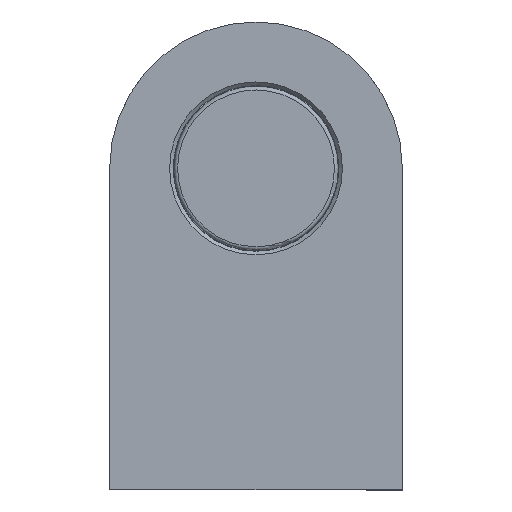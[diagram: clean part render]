
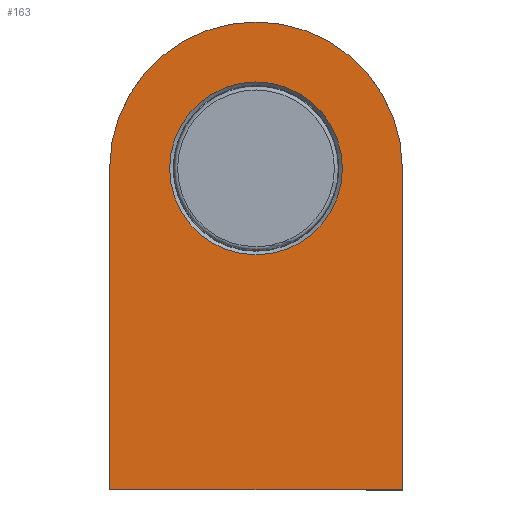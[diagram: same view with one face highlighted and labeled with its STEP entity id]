
A CAD part, top view. The second image highlights one B-rep face of the part: STEP entity #163.
In plain terms, the highlighted planar face has unit normal (0, 0, 1).
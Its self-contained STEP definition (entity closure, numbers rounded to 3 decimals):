
#74=PLANE('',#1039);
#124=FACE_BOUND('',#279,.T.);
#125=FACE_BOUND('',#280,.T.);
#163=ADVANCED_FACE('',(#124,#125),#74,.T.);
#279=EDGE_LOOP('',(#484,#485,#486,#487));
#280=EDGE_LOOP('',(#488));
#319=CIRCLE('',#1030,12.1);
#320=CIRCLE('',#1032,20.5);
#484=ORIENTED_EDGE('',*,*,#755,.T.);
#485=ORIENTED_EDGE('',*,*,#744,.T.);
#486=ORIENTED_EDGE('',*,*,#754,.T.);
#487=ORIENTED_EDGE('',*,*,#756,.T.);
#488=ORIENTED_EDGE('',*,*,#742,.T.);
#635=VERTEX_POINT('',#1567);
#637=VERTEX_POINT('',#1571);
#638=VERTEX_POINT('',#1573);
#644=VERTEX_POINT('',#1591);
#645=VERTEX_POINT('',#1595);
#742=EDGE_CURVE('',#635,#635,#319,.T.);
#744=EDGE_CURVE('',#638,#637,#320,.T.);
#754=EDGE_CURVE('',#637,#644,#853,.T.);
#755=EDGE_CURVE('',#645,#638,#854,.T.);
#756=EDGE_CURVE('',#644,#645,#855,.T.);
#853=LINE('',#1592,#947);
#854=LINE('',#1594,#948);
#855=LINE('',#1596,#949);
#947=VECTOR('',#1237,1.);
#948=VECTOR('',#1240,1.);
#949=VECTOR('',#1241,1.);
#1030=AXIS2_PLACEMENT_3D('',#1566,#1213,#1214);
#1032=AXIS2_PLACEMENT_3D('',#1572,#1218,#1219);
#1039=AXIS2_PLACEMENT_3D('',#1597,#1242,#1243);
#1213=DIRECTION('',(0.,0.,-1.));
#1214=DIRECTION('',(1.,0.,0.));
#1218=DIRECTION('',(0.,0.,1.));
#1219=DIRECTION('',(1.,0.,0.));
#1237=DIRECTION('',(0.,-1.,0.));
#1240=DIRECTION('',(0.,1.,0.));
#1241=DIRECTION('',(1.,0.,0.));
#1242=DIRECTION('',(0.,0.,1.));
#1243=DIRECTION('',(0.,1.,0.));
#1566=CARTESIAN_POINT('',(0.,45.,1.));
#1567=CARTESIAN_POINT('',(12.1,45.,1.));
#1571=CARTESIAN_POINT('',(-20.5,45.,1.));
#1572=CARTESIAN_POINT('',(0.,45.,1.));
#1573=CARTESIAN_POINT('',(20.5,45.,1.));
#1591=CARTESIAN_POINT('',(-20.5,-0.009,1.));
#1592=CARTESIAN_POINT('',(-20.5,-0.009,1.));
#1594=CARTESIAN_POINT('',(20.5,-0.009,1.));
#1595=CARTESIAN_POINT('',(20.5,-0.009,1.));
#1596=CARTESIAN_POINT('',(-20.5,-0.009,1.));
#1597=CARTESIAN_POINT('',(-20.5,-0.009,1.));
